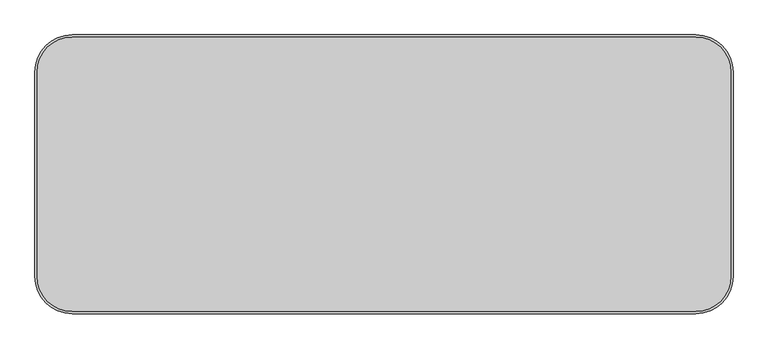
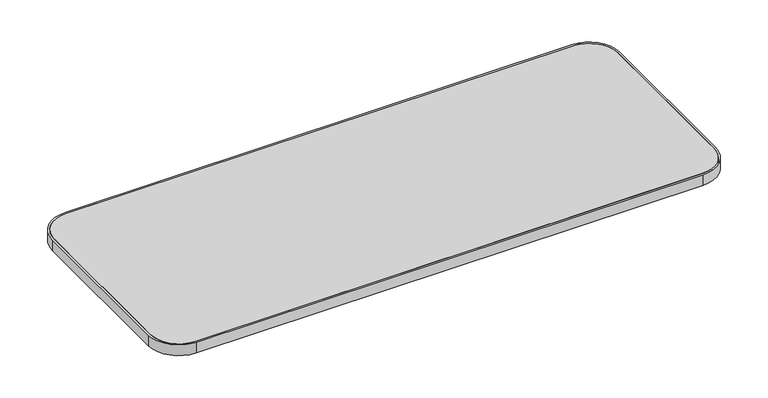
"""IFC4 building model written with IfcOpenShell, lengths in millimetres: furniture geometry, Steelcase - Answer Solution - Universal Table - Straight - 3mm Edge : 24D x 60W."""

from ifc_helpers import new_model, si_unit, point, frame, frame_2d, origin, place, context, project, spatial, polyline, circle_curve, trimmed, segment, composite_curve, outline, extrude, source, transform, mapped, element, save


def furniture_94bb5d37(model_context):
    return source(origin(), model_context, "Body", "SweptSolid", [
        extrude(outline(composite_curve([segment(polyline([(5.08, -528.32), (5.08, -81.28)]), True, "CONTINUOUS"), segment(trimmed(circle_curve(frame_2d((81.28, -81.28)), 76.2), [point((5.08, -81.28))], [point((81.28, -5.08))], False, "CARTESIAN"), True, "CONTINUOUS"), segment(polyline([(81.28, -5.08), (1442.72, -5.08)]), True, "CONTINUOUS"), segment(trimmed(circle_curve(frame_2d((1442.72, -81.28)), 76.2), [point((1442.72, -5.08))], [point((1518.92, -81.28))], False, "CARTESIAN"), True, "CONTINUOUS"), segment(polyline([(1518.92, -81.28), (1518.92, -528.32)]), True, "CONTINUOUS"), segment(trimmed(circle_curve(frame_2d((1442.72, -528.32)), 76.2), [point((1518.92, -528.32))], [point((1442.72, -604.52))], False, "CARTESIAN"), True, "CONTINUOUS"), segment(polyline([(1442.72, -604.52), (81.28, -604.52)]), True, "CONTINUOUS"), segment(trimmed(circle_curve(frame_2d((81.28, -528.32)), 76.2), [point((81.28, -604.52))], [point((5.08, -528.32))], False, "CARTESIAN"), True, "CONTINUOUS")], self_intersect=False)), frame((0.0, 0.0, 668.274), z_axis=(0.0, 0.0, 1.0), x_axis=(1.0, 0.0, 0.0)), (0.0, 0.0, 1.0), 30.0990349),
        extrude(outline(composite_curve([segment(polyline([(81.28, 0.0), (1442.72, 0.0)]), True, "CONTINUOUS"), segment(trimmed(circle_curve(frame_2d((1442.72, -81.28)), 81.28), [point((1442.72, 0.0))], [point((1524.0, -81.28))], False, "CARTESIAN"), True, "CONTINUOUS"), segment(polyline([(1524.0, -81.28), (1524.0, -528.32)]), True, "CONTINUOUS"), segment(trimmed(circle_curve(frame_2d((1442.72, -528.32)), 81.28), [point((1524.0, -528.32))], [point((1442.72, -609.6))], False, "CARTESIAN"), True, "CONTINUOUS"), segment(polyline([(1442.72, -609.6), (81.28, -609.6)]), True, "CONTINUOUS"), segment(trimmed(circle_curve(frame_2d((81.28, -528.32)), 81.28), [point((81.28, -609.6))], [point((0.0, -528.32))], False, "CARTESIAN"), True, "CONTINUOUS"), segment(polyline([(0.0, -528.32), (0.0, -81.28)]), True, "CONTINUOUS"), segment(trimmed(circle_curve(frame_2d((81.28, -81.28)), 81.28), [point((0.0, -81.28))], [point((81.28, 0.0))], False, "CARTESIAN"), True, "CONTINUOUS")], self_intersect=False), holes=[composite_curve([segment(trimmed(circle_curve(frame_2d((81.28, -81.28)), 76.2), [point((81.28, -5.08))], [point((5.08, -81.28))], True, "CARTESIAN"), True, "CONTINUOUS"), segment(polyline([(5.08, -81.28), (5.08, -528.32)]), True, "CONTINUOUS"), segment(trimmed(circle_curve(frame_2d((81.28, -528.32)), 76.2), [point((5.08, -528.32))], [point((81.28, -604.52))], True, "CARTESIAN"), True, "CONTINUOUS"), segment(polyline([(81.28, -604.52), (1442.72, -604.52)]), True, "CONTINUOUS"), segment(trimmed(circle_curve(frame_2d((1442.72, -528.32)), 76.2), [point((1442.72, -604.52))], [point((1518.92, -528.32))], True, "CARTESIAN"), True, "CONTINUOUS"), segment(polyline([(1518.92, -528.32), (1518.92, -81.28)]), True, "CONTINUOUS"), segment(trimmed(circle_curve(frame_2d((1442.72, -81.28)), 76.2), [point((1518.92, -81.28))], [point((1442.72, -5.08))], True, "CARTESIAN"), True, "CONTINUOUS"), segment(polyline([(1442.72, -5.08), (81.28, -5.08)]), True, "CONTINUOUS")], self_intersect=False)]), frame((0.0, 0.0, 668.274), z_axis=(0.0, 0.0, 1.0), x_axis=(1.0, 0.0, 0.0)), (0.0, 0.0, 1.0), 30.0990349),
    ])


if __name__ == "__main__":
    model = new_model("IFC4")
    model_context = context("Model", 3, world=origin())
    ifc_project = project(units=[si_unit("LENGTHUNIT", "METRE", prefix="MILLI")], contexts=[model_context])
    site = spatial("IfcSite", under=ifc_project)
    building = spatial("IfcBuilding", under=site)
    placement = place(None, origin())
    furniture_shape = furniture_94bb5d37(model_context)
    element("IfcFurniture", 1, ObjectType="Steelcase - Answer Solution - Universal Table - Straight - 3mm Edge : 24D x 60W", at=placement, inside=building, context=model_context, shape_type="MappedRepresentation", body=[
        mapped(furniture_shape, transform((0.0, 0.0, 0.0), x_axis=(1.0, 0.0, 0.0), y_axis=(0.0, 1.0, 0.0), z_axis=(0.0, 0.0, 1.0))),
    ])
    save(model, "model.ifc")
